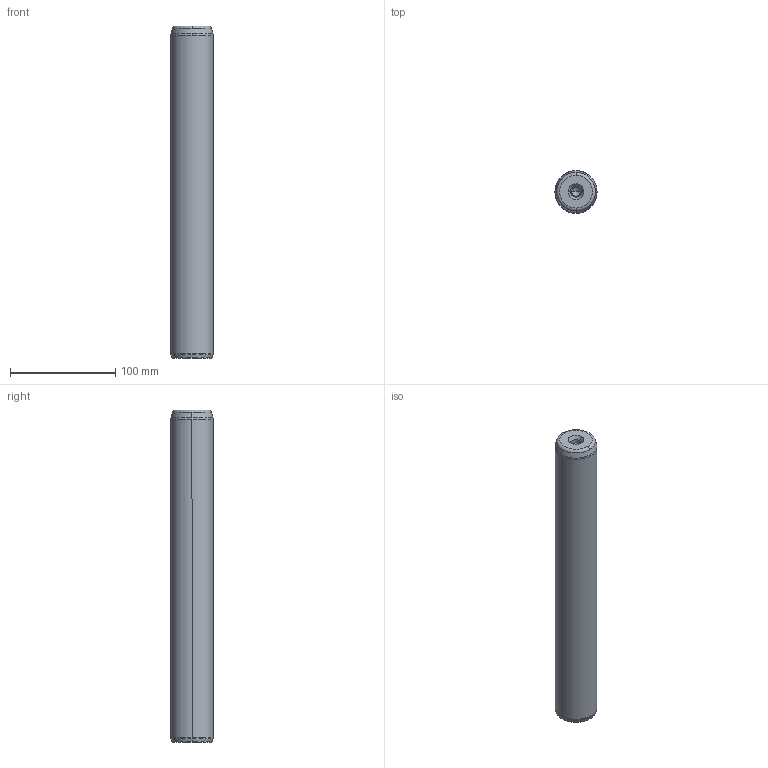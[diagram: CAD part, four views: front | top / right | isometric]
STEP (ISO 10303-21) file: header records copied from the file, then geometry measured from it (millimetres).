
FILE_DESCRIPTION((''),'2;1');
FILE_NAME('P10_040_315.stp','2008-12-23T15:25:10',(''),(''),'Mechanical Desktop 2009','Mechanical Desktop 2009',', , ');
FILE_SCHEMA(('CONFIG_CONTROL_DESIGN'));
Length unit declared in the file: millimetre
Products named in the file (5): Product; ProductAA; blmdl1; ProductA; blmdl1A
Assembly tree (2 placements, depth 3):
  Product
    ProductAA
      blmdl1
  ProductA
  blmdl1A
Bounding box: 40 x 40 x 315 mm (x, y, z)
Volume: 392336.6 mm3; surface area: 42427.8 mm2
Topology: 1 solids, 1 shells, 26 faces, 66 edges, 41 vertices
Faces by surface type: cone 10, torus 8, cylinder 6, plane 2
Entity records: 1012 total; most frequent: DIRECTION 170, CARTESIAN_POINT 134, ORIENTED_EDGE 128, AXIS2_PLACEMENT_3D 77, EDGE_CURVE 64, CIRCLE 48, VERTEX_POINT 41, EDGE_LOOP 27
